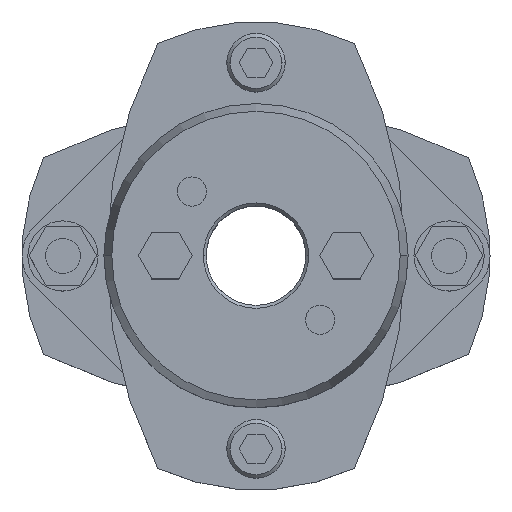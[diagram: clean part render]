
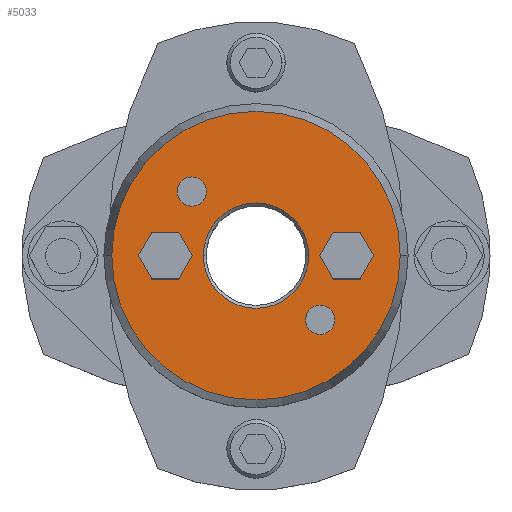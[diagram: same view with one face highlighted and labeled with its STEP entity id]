
A CAD part, top view. The second image highlights one B-rep face of the part: STEP entity #5033.
In plain terms, the highlighted planar face has unit normal (0, 0, 1).
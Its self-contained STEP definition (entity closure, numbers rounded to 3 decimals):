
#857=CARTESIAN_POINT('',(-9.,0.,35.875));
#858=VERTEX_POINT('',#857);
#874=CARTESIAN_POINT('',(9.,0.,35.875));
#875=VERTEX_POINT('',#874);
#882=CARTESIAN_POINT('',(0.,0.,35.875));
#883=DIRECTION('',(0.0,0.0,1.0));
#884=DIRECTION('',(-1.0,0.0,0.0));
#885=AXIS2_PLACEMENT_3D('',#882,#883,#884);
#886=CIRCLE('',#885,9.0);
#887=EDGE_CURVE('',#875,#858,#886,.T.);
#1045=CARTESIAN_POINT('',(24.66,0.,35.875));
#1046=VERTEX_POINT('',#1045);
#1053=CARTESIAN_POINT('',(-24.66,0.,35.875));
#1054=VERTEX_POINT('',#1053);
#1055=CARTESIAN_POINT('',(0.,0.,35.875));
#1056=DIRECTION('',(0.0,0.0,-1.0));
#1057=DIRECTION('',(1.0,0.0,0.0));
#1058=AXIS2_PLACEMENT_3D('',#1055,#1056,#1057);
#1059=CIRCLE('',#1058,24.66);
#1060=EDGE_CURVE('',#1046,#1054,#1059,.T.);
#1155=CARTESIAN_POINT('',(-13.46,10.96,35.875));
#1156=VERTEX_POINT('',#1155);
#1172=CARTESIAN_POINT('',(-8.46,10.96,35.875));
#1173=VERTEX_POINT('',#1172);
#1180=CARTESIAN_POINT('',(-10.96,10.96,35.875));
#1181=DIRECTION('',(0.0,0.0,-1.0));
#1182=DIRECTION('',(-1.0,0.0,0.0));
#1183=AXIS2_PLACEMENT_3D('',#1180,#1181,#1182);
#1184=CIRCLE('',#1183,2.5);
#1185=EDGE_CURVE('',#1156,#1173,#1184,.T.);
#1197=CARTESIAN_POINT('',(8.46,-10.96,35.875));
#1198=VERTEX_POINT('',#1197);
#1214=CARTESIAN_POINT('',(13.46,-10.96,35.875));
#1215=VERTEX_POINT('',#1214);
#1222=CARTESIAN_POINT('',(10.96,-10.96,35.875));
#1223=DIRECTION('',(0.0,0.0,-1.0));
#1224=DIRECTION('',(-1.0,0.0,0.0));
#1225=AXIS2_PLACEMENT_3D('',#1222,#1223,#1224);
#1226=CIRCLE('',#1225,2.5);
#1227=EDGE_CURVE('',#1198,#1215,#1226,.T.);
#4277=CARTESIAN_POINT('',(10.881,0.,35.875));
#4278=VERTEX_POINT('',#4277);
#4285=CARTESIAN_POINT('',(13.191,-4.,35.875));
#4286=VERTEX_POINT('',#4285);
#4287=CARTESIAN_POINT('',(13.191,-4.,35.875));
#4288=DIRECTION('',(-0.5,0.866,0.0));
#4289=VECTOR('',#4288,4.619);
#4290=LINE('',#4287,#4289);
#4291=EDGE_CURVE('',#4286,#4278,#4290,.T.);
#4315=CARTESIAN_POINT('',(13.191,4.,35.875));
#4316=VERTEX_POINT('',#4315);
#4323=CARTESIAN_POINT('',(10.881,0.,35.875));
#4324=DIRECTION('',(0.5,0.866,0.0));
#4325=VECTOR('',#4324,4.619);
#4326=LINE('',#4323,#4325);
#4327=EDGE_CURVE('',#4278,#4316,#4326,.T.);
#4346=CARTESIAN_POINT('',(17.809,4.,35.875));
#4347=VERTEX_POINT('',#4346);
#4354=CARTESIAN_POINT('',(13.191,4.,35.875));
#4355=DIRECTION('',(1.0,0.0,0.0));
#4356=VECTOR('',#4355,4.619);
#4357=LINE('',#4354,#4356);
#4358=EDGE_CURVE('',#4316,#4347,#4357,.T.);
#4377=CARTESIAN_POINT('',(20.119,0.,35.875));
#4378=VERTEX_POINT('',#4377);
#4385=CARTESIAN_POINT('',(17.809,4.,35.875));
#4386=DIRECTION('',(0.5,-0.866,0.0));
#4387=VECTOR('',#4386,4.619);
#4388=LINE('',#4385,#4387);
#4389=EDGE_CURVE('',#4347,#4378,#4388,.T.);
#4408=CARTESIAN_POINT('',(17.809,-4.,35.875));
#4409=VERTEX_POINT('',#4408);
#4416=CARTESIAN_POINT('',(20.119,0.,35.875));
#4417=DIRECTION('',(-0.5,-0.866,0.0));
#4418=VECTOR('',#4417,4.619);
#4419=LINE('',#4416,#4418);
#4420=EDGE_CURVE('',#4378,#4409,#4419,.T.);
#4438=CARTESIAN_POINT('',(17.809,-4.,35.875));
#4439=DIRECTION('',(-1.0,0.0,0.0));
#4440=VECTOR('',#4439,4.619);
#4441=LINE('',#4438,#4440);
#4442=EDGE_CURVE('',#4409,#4286,#4441,.T.);
#4477=CARTESIAN_POINT('',(-20.119,0.,35.875));
#4478=VERTEX_POINT('',#4477);
#4485=CARTESIAN_POINT('',(-17.809,-4.,35.875));
#4486=VERTEX_POINT('',#4485);
#4487=CARTESIAN_POINT('',(-17.809,-4.,35.875));
#4488=DIRECTION('',(-0.5,0.866,0.0));
#4489=VECTOR('',#4488,4.619);
#4490=LINE('',#4487,#4489);
#4491=EDGE_CURVE('',#4486,#4478,#4490,.T.);
#4515=CARTESIAN_POINT('',(-17.809,4.,35.875));
#4516=VERTEX_POINT('',#4515);
#4523=CARTESIAN_POINT('',(-20.119,0.,35.875));
#4524=DIRECTION('',(0.5,0.866,0.0));
#4525=VECTOR('',#4524,4.619);
#4526=LINE('',#4523,#4525);
#4527=EDGE_CURVE('',#4478,#4516,#4526,.T.);
#4546=CARTESIAN_POINT('',(-13.191,4.,35.875));
#4547=VERTEX_POINT('',#4546);
#4554=CARTESIAN_POINT('',(-17.809,4.,35.875));
#4555=DIRECTION('',(1.0,0.0,0.0));
#4556=VECTOR('',#4555,4.619);
#4557=LINE('',#4554,#4556);
#4558=EDGE_CURVE('',#4516,#4547,#4557,.T.);
#4577=CARTESIAN_POINT('',(-10.881,0.,35.875));
#4578=VERTEX_POINT('',#4577);
#4585=CARTESIAN_POINT('',(-13.191,4.,35.875));
#4586=DIRECTION('',(0.5,-0.866,0.0));
#4587=VECTOR('',#4586,4.619);
#4588=LINE('',#4585,#4587);
#4589=EDGE_CURVE('',#4547,#4578,#4588,.T.);
#4608=CARTESIAN_POINT('',(-13.191,-4.,35.875));
#4609=VERTEX_POINT('',#4608);
#4616=CARTESIAN_POINT('',(-10.881,0.,35.875));
#4617=DIRECTION('',(-0.5,-0.866,0.0));
#4618=VECTOR('',#4617,4.619);
#4619=LINE('',#4616,#4618);
#4620=EDGE_CURVE('',#4578,#4609,#4619,.T.);
#4638=CARTESIAN_POINT('',(-13.191,-4.,35.875));
#4639=DIRECTION('',(-1.0,0.0,0.0));
#4640=VECTOR('',#4639,4.619);
#4641=LINE('',#4638,#4640);
#4642=EDGE_CURVE('',#4609,#4486,#4641,.T.);
#4668=CARTESIAN_POINT('',(10.96,-10.96,35.875));
#4669=DIRECTION('',(0.0,0.0,-1.0));
#4670=DIRECTION('',(-1.0,0.0,0.0));
#4671=AXIS2_PLACEMENT_3D('',#4668,#4669,#4670);
#4672=CIRCLE('',#4671,2.5);
#4673=EDGE_CURVE('',#1215,#1198,#4672,.T.);
#4702=CARTESIAN_POINT('',(-10.96,10.96,35.875));
#4703=DIRECTION('',(0.0,0.0,-1.0));
#4704=DIRECTION('',(-1.0,0.0,0.0));
#4705=AXIS2_PLACEMENT_3D('',#4702,#4703,#4704);
#4706=CIRCLE('',#4705,2.5);
#4707=EDGE_CURVE('',#1173,#1156,#4706,.T.);
#4980=CARTESIAN_POINT('',(0.,0.,35.875));
#4981=DIRECTION('',(0.0,0.0,-1.0));
#4982=DIRECTION('',(1.0,0.0,0.0));
#4983=AXIS2_PLACEMENT_3D('',#4980,#4981,#4982);
#4984=CIRCLE('',#4983,24.66);
#4985=EDGE_CURVE('',#1054,#1046,#4984,.T.);
#4990=CARTESIAN_POINT('',(-2.364,0.,35.875));
#4991=DIRECTION('',(0.0,0.0,1.0));
#4992=DIRECTION('',(-1.0,0.0,0.0));
#4993=AXIS2_PLACEMENT_3D('',#4990,#4991,#4992);
#4994=PLANE('',#4993);
#4995=ORIENTED_EDGE('',*,*,#4985,.F.);
#4996=ORIENTED_EDGE('',*,*,#1060,.F.);
#4997=EDGE_LOOP('',(#4995,#4996));
#4998=FACE_OUTER_BOUND('',#4997,.T.);
#4999=ORIENTED_EDGE('',*,*,#4291,.T.);
#5000=ORIENTED_EDGE('',*,*,#4327,.T.);
#5001=ORIENTED_EDGE('',*,*,#4358,.T.);
#5002=ORIENTED_EDGE('',*,*,#4389,.T.);
#5003=ORIENTED_EDGE('',*,*,#4420,.T.);
#5004=ORIENTED_EDGE('',*,*,#4442,.T.);
#5005=EDGE_LOOP('',(#4999,#5000,#5001,#5002,#5003,#5004));
#5006=FACE_BOUND('',#5005,.T.);
#5007=ORIENTED_EDGE('',*,*,#4491,.T.);
#5008=ORIENTED_EDGE('',*,*,#4527,.T.);
#5009=ORIENTED_EDGE('',*,*,#4558,.T.);
#5010=ORIENTED_EDGE('',*,*,#4589,.T.);
#5011=ORIENTED_EDGE('',*,*,#4620,.T.);
#5012=ORIENTED_EDGE('',*,*,#4642,.T.);
#5013=EDGE_LOOP('',(#5007,#5008,#5009,#5010,#5011,#5012));
#5014=FACE_BOUND('',#5013,.T.);
#5015=ORIENTED_EDGE('',*,*,#1227,.T.);
#5016=ORIENTED_EDGE('',*,*,#4673,.T.);
#5017=EDGE_LOOP('',(#5015,#5016));
#5018=FACE_BOUND('',#5017,.T.);
#5019=ORIENTED_EDGE('',*,*,#1185,.T.);
#5020=ORIENTED_EDGE('',*,*,#4707,.T.);
#5021=EDGE_LOOP('',(#5019,#5020));
#5022=FACE_BOUND('',#5021,.T.);
#5023=ORIENTED_EDGE('',*,*,#887,.F.);
#5024=CARTESIAN_POINT('',(0.,0.,35.875));
#5025=DIRECTION('',(0.0,0.0,1.0));
#5026=DIRECTION('',(-1.0,0.0,0.0));
#5027=AXIS2_PLACEMENT_3D('',#5024,#5025,#5026);
#5028=CIRCLE('',#5027,9.0);
#5029=EDGE_CURVE('',#858,#875,#5028,.T.);
#5030=ORIENTED_EDGE('',*,*,#5029,.F.);
#5031=EDGE_LOOP('',(#5023,#5030));
#5032=FACE_BOUND('',#5031,.T.);
#5033=ADVANCED_FACE('',(#4998,#5006,#5014,#5018,#5022,#5032),#4994,.T.);
